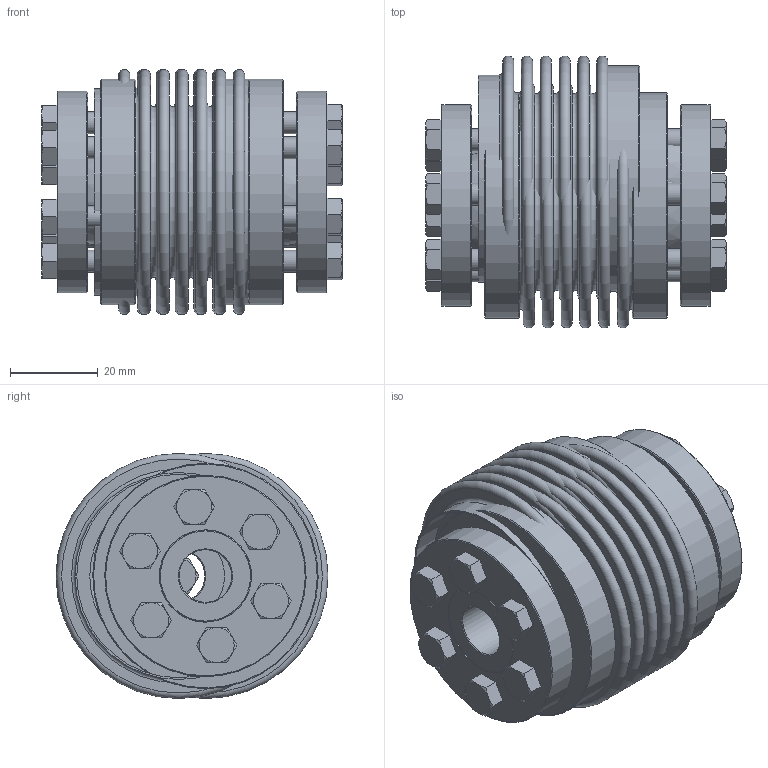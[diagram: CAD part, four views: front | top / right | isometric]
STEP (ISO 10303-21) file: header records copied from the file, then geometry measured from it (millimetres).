
FILE_DESCRIPTION( ( 'Unknown' ), '1' );
FILE_NAME( 'C:/Dokumente und Einstellungen/Sven/Desktop/homepage/cad - homepage/KB6/KB6-30-68.stp', 'Unknown', ( 'Unknown' ), ( 'Unknown' ), 'XStep 1.0', 'Unknown', ' ' );
FILE_SCHEMA( ( 'automotive_design' ) );
Length unit declared in the file: millimetre
Products named in the file (5): Assem1; Hex Screw GradeC_DIN_ISO 4018 - M5 x 16-NN_0; BA30_Standard_0; DR30_Standard_0; BL30_Standard
Bounding box: 68.65 x 62.13 x 55.99 mm (x, y, z)
Volume: 98785.8 mm3; surface area: 111572.6 mm2
Topology: 21 solids, 21 shells, 419 faces, 847 edges, 534 vertices
Faces by surface type: plane 184, cone 118, cylinder 69, torus 48
Full cylindrical faces by diameter (mm): 4.2 x18, 5 x13, 5.5 x18, 12 x3, 24.526 x3, 46 x3, 46.5 x4, 47.3 x4, 51.5 x3
Entity records: 2612 total; most frequent: DIRECTION 460, CARTESIAN_POINT 401, ORIENTED_EDGE 258, AXIS2_PLACEMENT_3D 224, EDGE_LOOP 212, FACE_OUTER_BOUND 146, EDGE_CURVE 129, VERTEX_POINT 117
